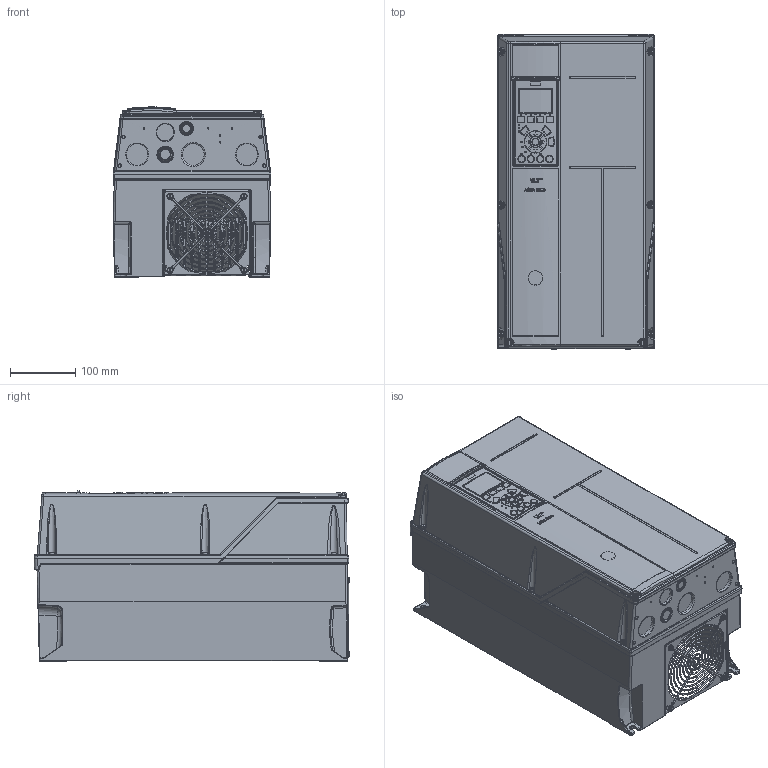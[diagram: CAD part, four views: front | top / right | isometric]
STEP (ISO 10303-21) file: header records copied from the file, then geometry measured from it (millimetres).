
FILE_DESCRIPTION((''),'2;1');
FILE_NAME('DANFOSS-FC200-B1','2011-10-27T',('cstephenkumar'),('Be-Atch INC. 1993'),'PRO/ENGINEER BY PARAMETRIC TECHNOLOGY CORPORATION, 2009360','PRO/ENGINEER BY PARAMETRIC TECHNOLOGY CORPORATION, 2009360','');
FILE_SCHEMA(('AUTOMOTIVE_DESIGN { 1 0 10303 214 1 1 1 1 }'));
Products named in the file (1): DANFOSS-FC200-B1
Bounding box: 242 x 483.31 x 260.68 mm (x, y, z)
Volume: 20446407.9 mm3; surface area: 1841621.4 mm2
Topology: 1 solids, 16 shells, 4566 faces, 11538 edges, 6987 vertices
Faces by surface type: cylinder 1530, plane 1358, bspline 1068, torus 320, cone 212, sphere 56, extrusion 22
Entity records: 197299 total; most frequent: CARTESIAN_POINT 96437, ORIENTED_EDGE 22924, DIRECTION 17367, EDGE_CURVE 11462, VERTEX_POINT 6987, AXIS2_PLACEMENT_3D 6235, VECTOR 4897, LINE 4875
